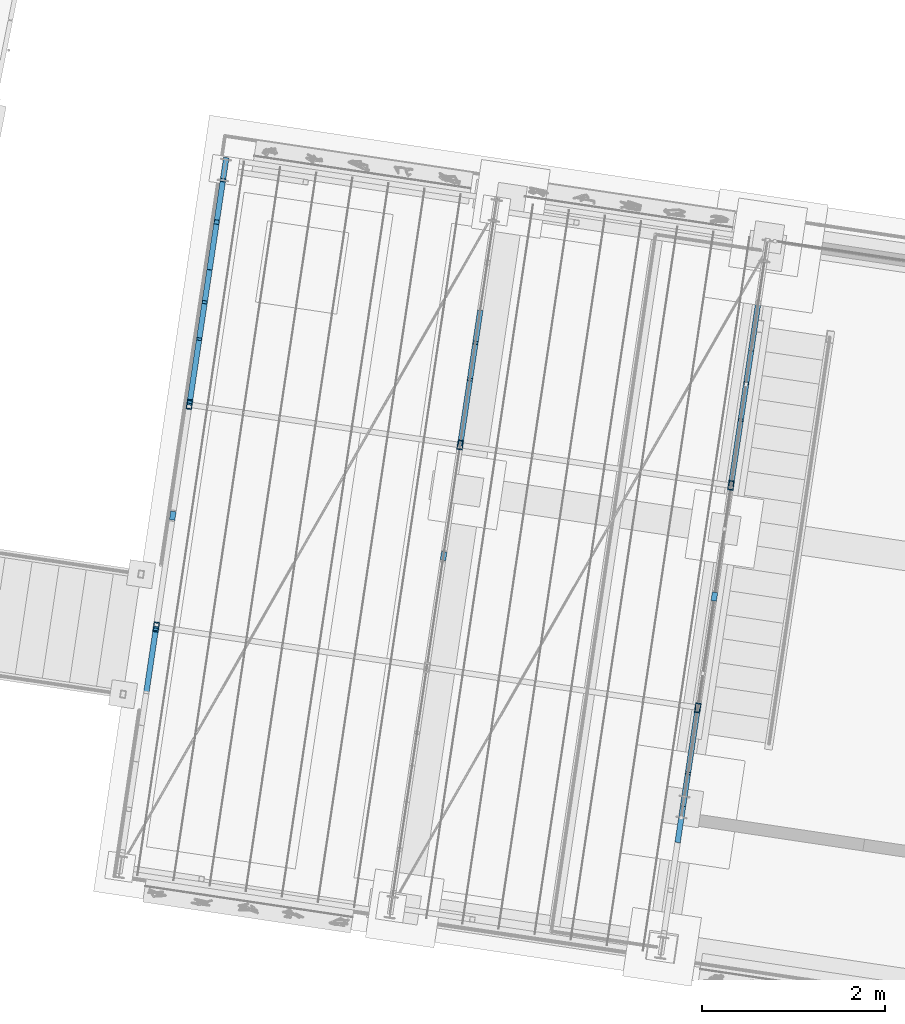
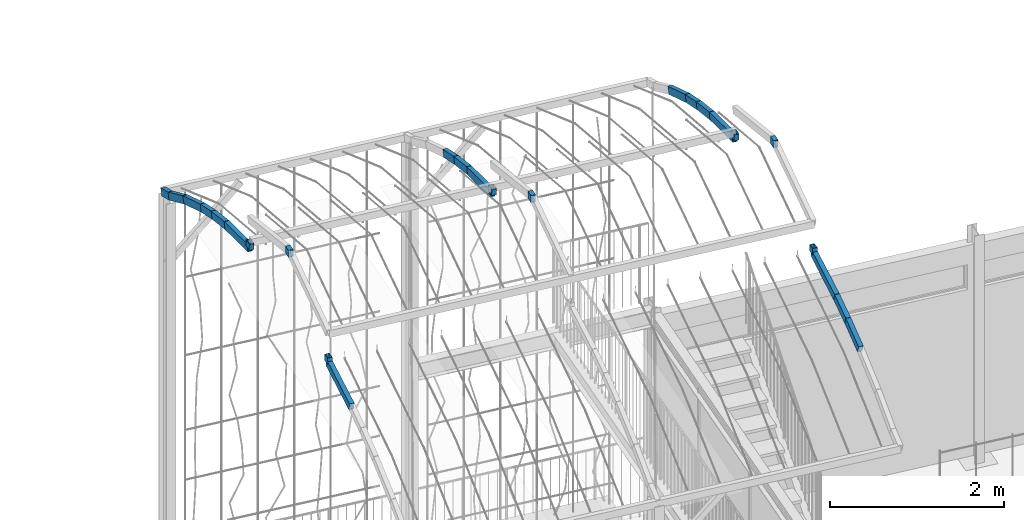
# One storey, part 111 of 142: 25 members, 1 element without a shape of its own.
"""IFC4 building model written with IfcOpenShell, lengths in metres."""

from ifc_helpers import new_model, si_unit, direction, frame, origin_with_axes, place, context, subcontext, project, spatial, hollow_rectangle, extrude, material, material_profile, profile_set, profile_usage, type_object, element, aggregate, save


model = new_model("IFC4")

# Units and contexts
model_context = context("Model", 3, precision=1e-05, world=origin_with_axes(), true_north=direction((0.0, 1.0)))
body_context = subcontext(model_context, "Body", "Model", "MODEL_VIEW")
ifc_project = project(units=[si_unit("AREAUNIT", "SQUARE_METRE"), si_unit("VOLUMEUNIT", "CUBIC_METRE"), si_unit("LENGTHUNIT", "METRE")], contexts=[model_context])

# Site, building, storey
site_placement = place(None, origin_with_axes())
site = spatial("IfcSite", under=ifc_project, at=site_placement, Name="Lares · Rua das Mercês · artigo 4771")
building_placement = place(site_placement, frame((15.0, 9.7, 14.65), z_axis=(0.0, 0.0, 1.0), x_axis=(0.989015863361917, -0.147809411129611, 0.0)))
building = spatial("IfcBuilding", under=site, at=building_placement, Name="Casa Sobreposta")
storey_placement = place(building_placement, origin_with_axes())
storey = spatial("IfcBuildingStorey", under=building, at=storey_placement, Name="00 · Habitação e estacionamento", Elevation=14.65)

# Assembly, members
assembly_placement = place(storey_placement, origin_with_axes())
assembly = element("IfcElementAssembly", 1, at=assembly_placement, inside=storey, Name="Pérgola · prolongamento da estufa 6 m", ObjectType="PERGOLA_GREENHOUSE_EXTENSION", PredefinedType="USERDEFINED")
ifc_material = material(Name="Aço pintado / Stahl lackiert", Category="steel")
ifc_material_profile = material_profile(ifc_material, hollow_rectangle(XDim=0.06, YDim=0.1, WallThickness=0.004))
ifc_profile_set = profile_set([ifc_material_profile], Name="RHS100x60x4")
ifc_profile_usage_1 = profile_usage(ifc_profile_set)
member_type = type_object("IfcMemberType", Name="RHS100x60x4 / steel", PredefinedType="NOTDEFINED", material=ifc_profile_set)
member_1_placement = place(assembly_placement, frame((-6.0, 0.493171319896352, 7.05943931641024), z_axis=(0.0, 0.977995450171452, 0.208626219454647), x_axis=(1.0, 0.0, 0.0)))
member_1 = element("IfcMember", 2, at=member_1_placement, type_object=member_type, material=ifc_profile_usage_1, Name="Pérgola · arco contínuo com a estufa", context=body_context, shape_type="SweptSolid", body=[
    extrude(hollow_rectangle(XDim=0.06, YDim=0.1, WallThickness=0.004), origin_with_axes(), (0.0, 0.0, 1.0), 0.737465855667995),
])
ifc_profile_usage_2 = profile_usage(ifc_profile_set)
member_2_placement = place(assembly_placement, frame((-6.0, 1.21440957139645, 7.21329402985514), z_axis=(0.0, 0.0686229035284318, 0.997642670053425), x_axis=(1.0, 0.0, 0.0)))
member_2 = element("IfcMember", 3, at=member_2_placement, type_object=member_type, material=ifc_profile_usage_2, Name="Pérgola · arco contínuo com a estufa", context=body_context, shape_type="SweptSolid", body=[
    extrude(hollow_rectangle(XDim=0.06, YDim=0.1, WallThickness=0.004), origin_with_axes(), (0.0, 0.0, 1.0), 0.0875893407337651),
])
ifc_profile_usage_3 = profile_usage(ifc_profile_set)
member_3_placement = place(assembly_placement, frame((-6.0, 2.40274082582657, 7.96518238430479), z_axis=(0.0, 1.0, 0.0), x_axis=(1.0, 0.0, 0.0)))
member_3 = element("IfcMember", 4, at=member_3_placement, type_object=member_type, material=ifc_profile_usage_3, Name="Pérgola · arco contínuo com a estufa", context=body_context, shape_type="SweptSolid", body=[
    extrude(hollow_rectangle(XDim=0.06, YDim=0.1, WallThickness=0.004), origin_with_axes(), (0.0, 0.0, 1.0), 0.0949594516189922),
])
ifc_profile_usage_4 = profile_usage(ifc_profile_set)
member_4_placement = place(assembly_placement, frame((-6.0, 3.68002089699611, 7.30067689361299), z_axis=(0.0, 0.0651953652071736, -0.997872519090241), x_axis=(1.0, 0.0, 0.0)))
member_4 = element("IfcMember", 5, at=member_4_placement, type_object=member_type, material=ifc_profile_usage_4, Name="Pérgola · arco contínuo com a estufa", context=body_context, shape_type="SweptSolid", body=[
    extrude(hollow_rectangle(XDim=0.06, YDim=0.1, WallThickness=0.004), origin_with_axes(), (0.0, 0.0, 1.0), 0.0875840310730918),
])
ifc_profile_usage_5 = profile_usage(ifc_profile_set)
member_5_placement = place(assembly_placement, frame((-6.0, 3.68573096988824, 7.21327919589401), z_axis=(0.0, 0.977996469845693, -0.208621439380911), x_axis=(1.0, 0.0, 0.0)))
member_5 = element("IfcMember", 6, at=member_5_placement, type_object=member_type, material=ifc_profile_usage_5, Name="Pérgola · arco contínuo com a estufa", context=body_context, shape_type="SweptSolid", body=[
    extrude(hollow_rectangle(XDim=0.06, YDim=0.1, WallThickness=0.004), origin_with_axes(), (0.0, 0.0, 1.0), 0.737400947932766),
])
ifc_profile_usage_6 = profile_usage(ifc_profile_set)
member_6_placement = place(assembly_placement, frame((-6.0, 4.40690649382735, 7.05944154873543), z_axis=(0.0, 0.958508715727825, -0.285063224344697), x_axis=(1.0, 0.0, 0.0)))
member_6 = element("IfcMember", 7, at=member_6_placement, type_object=member_type, material=ifc_profile_usage_6, Name="Pérgola · arco contínuo com a estufa", context=body_context, shape_type="SweptSolid", body=[
    extrude(hollow_rectangle(XDim=0.06, YDim=0.1, WallThickness=0.004), origin_with_axes(), (0.0, 0.0, 1.0), 0.426177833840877),
])
ifc_profile_usage_7 = profile_usage(ifc_profile_set)
member_7_placement = place(assembly_placement, frame((-6.0, 4.81540166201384, 6.93795392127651), z_axis=(0.0, 0.941396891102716, -0.337300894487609), x_axis=(1.0, 0.0, 0.0)))
member_7 = element("IfcMember", 8, at=member_7_placement, type_object=member_type, material=ifc_profile_usage_7, Name="Pérgola · arco contínuo com a estufa", context=body_context, shape_type="SweptSolid", body=[
    extrude(hollow_rectangle(XDim=0.06, YDim=0.1, WallThickness=0.004), origin_with_axes(), (0.0, 0.0, 1.0), 0.362337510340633),
])
ifc_profile_usage_8 = profile_usage(ifc_profile_set)
member_8_placement = place(assembly_placement, frame((-6.0, 5.15650506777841, 6.8157371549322), z_axis=(0.0, 0.915895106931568, -0.401417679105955), x_axis=(1.0, 0.0, 0.0)))
member_8 = element("IfcMember", 9, at=member_8_placement, type_object=member_type, material=ifc_profile_usage_8, Name="Pérgola · arco contínuo com a estufa", context=body_context, shape_type="SweptSolid", body=[
    extrude(hollow_rectangle(XDim=0.06, YDim=0.1, WallThickness=0.004), origin_with_axes(), (0.0, 0.0, 1.0), 0.596721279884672),
])
ifc_profile_usage_9 = profile_usage(ifc_profile_set)
member_9_placement = place(assembly_placement, frame((-6.0, 5.70303916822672, 6.57620268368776), z_axis=(0.0, 0.878867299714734, -0.477066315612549), x_axis=(1.0, 0.0, 0.0)))
member_9 = element("IfcMember", 10, at=member_9_placement, type_object=member_type, material=ifc_profile_usage_9, Name="Pérgola · arco contínuo com a estufa", context=body_context, shape_type="SweptSolid", body=[
    extrude(hollow_rectangle(XDim=0.06, YDim=0.1, WallThickness=0.004), origin_with_axes(), (0.0, 0.0, 1.0), 0.52859183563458),
])
ifc_profile_usage_10 = profile_usage(ifc_profile_set)
member_10_placement = place(assembly_placement, frame((-6.0, 6.16760124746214, 6.3240293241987), z_axis=(0.0, 0.932880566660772, -0.360185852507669), x_axis=(1.0, 0.0, 0.0)))
member_10 = element("IfcMember", 11, at=member_10_placement, type_object=member_type, material=ifc_profile_usage_10, Name="Pérgola · arco contínuo com a estufa", context=body_context, shape_type="SweptSolid", body=[
    extrude(hollow_rectangle(XDim=0.06, YDim=0.1, WallThickness=0.004), origin_with_axes(), (0.0, 0.0, 1.0), 0.249119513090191),
])
ifc_profile_usage_11 = profile_usage(ifc_profile_set)
member_11_placement = place(assembly_placement, frame((-3.0, 2.40274082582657, 7.96518238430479), z_axis=(0.0, 1.0, 0.0), x_axis=(1.0, 0.0, 0.0)))
member_11 = element("IfcMember", 12, at=member_11_placement, type_object=member_type, material=ifc_profile_usage_11, Name="Pérgola · arco contínuo com a estufa", context=body_context, shape_type="SweptSolid", body=[
    extrude(hollow_rectangle(XDim=0.06, YDim=0.1, WallThickness=0.004), origin_with_axes(), (0.0, 0.0, 1.0), 0.0949594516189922),
])
ifc_profile_usage_12 = profile_usage(ifc_profile_set)
member_12_placement = place(assembly_placement, frame((-3.0, 3.68002089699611, 7.30067689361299), z_axis=(0.0, 0.0651953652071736, -0.997872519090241), x_axis=(1.0, 0.0, 0.0)))
member_12 = element("IfcMember", 13, at=member_12_placement, type_object=member_type, material=ifc_profile_usage_12, Name="Pérgola · arco contínuo com a estufa", context=body_context, shape_type="SweptSolid", body=[
    extrude(hollow_rectangle(XDim=0.06, YDim=0.1, WallThickness=0.004), origin_with_axes(), (0.0, 0.0, 1.0), 0.0875840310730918),
])
ifc_profile_usage_13 = profile_usage(ifc_profile_set)
member_13_placement = place(assembly_placement, frame((-3.0, 3.68573096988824, 7.21327919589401), z_axis=(0.0, 0.977996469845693, -0.208621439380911), x_axis=(1.0, 0.0, 0.0)))
member_13 = element("IfcMember", 14, at=member_13_placement, type_object=member_type, material=ifc_profile_usage_13, Name="Pérgola · arco contínuo com a estufa", context=body_context, shape_type="SweptSolid", body=[
    extrude(hollow_rectangle(XDim=0.06, YDim=0.1, WallThickness=0.004), origin_with_axes(), (0.0, 0.0, 1.0), 0.737400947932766),
])
ifc_profile_usage_14 = profile_usage(ifc_profile_set)
member_14_placement = place(assembly_placement, frame((-3.0, 4.40690649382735, 7.05944154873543), z_axis=(0.0, 0.958508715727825, -0.285063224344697), x_axis=(1.0, 0.0, 0.0)))
member_14 = element("IfcMember", 15, at=member_14_placement, type_object=member_type, material=ifc_profile_usage_14, Name="Pérgola · arco contínuo com a estufa", context=body_context, shape_type="SweptSolid", body=[
    extrude(hollow_rectangle(XDim=0.06, YDim=0.1, WallThickness=0.004), origin_with_axes(), (0.0, 0.0, 1.0), 0.426177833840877),
])
ifc_profile_usage_15 = profile_usage(ifc_profile_set)
member_15_placement = place(assembly_placement, frame((-3.0, 4.81540166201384, 6.93795392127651), z_axis=(0.0, 0.941396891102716, -0.337300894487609), x_axis=(1.0, 0.0, 0.0)))
member_15 = element("IfcMember", 16, at=member_15_placement, type_object=member_type, material=ifc_profile_usage_15, Name="Pérgola · arco contínuo com a estufa", context=body_context, shape_type="SweptSolid", body=[
    extrude(hollow_rectangle(XDim=0.06, YDim=0.1, WallThickness=0.004), origin_with_axes(), (0.0, 0.0, 1.0), 0.362337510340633),
])
ifc_profile_usage_16 = profile_usage(ifc_profile_set)
member_16_placement = place(assembly_placement, frame((0.0, -0.256488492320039, 6.81570306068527), z_axis=(0.0, 0.942820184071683, 0.333301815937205), x_axis=(1.0, 0.0, 0.0)))
member_16 = element("IfcMember", 17, at=member_16_placement, type_object=member_type, material=ifc_profile_usage_16, Name="Pérgola · arco contínuo com a estufa", context=body_context, shape_type="SweptSolid", body=[
    extrude(hollow_rectangle(XDim=0.06, YDim=0.1, WallThickness=0.004), origin_with_axes(), (0.0, 0.0, 1.0), 0.423025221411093),
])
ifc_profile_usage_17 = profile_usage(ifc_profile_set)
member_17_placement = place(assembly_placement, frame((0.0, 0.142348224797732, 6.95669813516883), z_axis=(0.0, 0.959692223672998, 0.281053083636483), x_axis=(1.0, 0.0, 0.0)))
member_17 = element("IfcMember", 18, at=member_17_placement, type_object=member_type, material=ifc_profile_usage_17, Name="Pérgola · arco contínuo com a estufa", context=body_context, shape_type="SweptSolid", body=[
    extrude(hollow_rectangle(XDim=0.06, YDim=0.1, WallThickness=0.004), origin_with_axes(), (0.0, 0.0, 1.0), 0.365557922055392),
])
ifc_profile_usage_18 = profile_usage(ifc_profile_set)
member_18_placement = place(assembly_placement, frame((0.0, 0.493171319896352, 7.05943931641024), z_axis=(0.0, 0.977995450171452, 0.208626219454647), x_axis=(1.0, 0.0, 0.0)))
member_18 = element("IfcMember", 19, at=member_18_placement, type_object=member_type, material=ifc_profile_usage_18, Name="Pérgola · arco contínuo com a estufa", context=body_context, shape_type="SweptSolid", body=[
    extrude(hollow_rectangle(XDim=0.06, YDim=0.1, WallThickness=0.004), origin_with_axes(), (0.0, 0.0, 1.0), 0.737465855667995),
])
ifc_profile_usage_19 = profile_usage(ifc_profile_set)
member_19_placement = place(assembly_placement, frame((0.0, 1.21440957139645, 7.21329402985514), z_axis=(0.0, 0.0686229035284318, 0.997642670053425), x_axis=(1.0, 0.0, 0.0)))
member_19 = element("IfcMember", 20, at=member_19_placement, type_object=member_type, material=ifc_profile_usage_19, Name="Pérgola · arco contínuo com a estufa", context=body_context, shape_type="SweptSolid", body=[
    extrude(hollow_rectangle(XDim=0.06, YDim=0.1, WallThickness=0.004), origin_with_axes(), (0.0, 0.0, 1.0), 0.0875893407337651),
])
ifc_profile_usage_20 = profile_usage(ifc_profile_set)
member_20_placement = place(assembly_placement, frame((0.0, 2.40274082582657, 7.96518238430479), z_axis=(0.0, 1.0, 0.0), x_axis=(1.0, 0.0, 0.0)))
member_20 = element("IfcMember", 21, at=member_20_placement, type_object=member_type, material=ifc_profile_usage_20, Name="Pérgola · arco contínuo com a estufa", context=body_context, shape_type="SweptSolid", body=[
    extrude(hollow_rectangle(XDim=0.06, YDim=0.1, WallThickness=0.004), origin_with_axes(), (0.0, 0.0, 1.0), 0.0949594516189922),
])
ifc_profile_usage_21 = profile_usage(ifc_profile_set)
member_21_placement = place(assembly_placement, frame((0.0, 3.68002089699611, 7.30067689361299), z_axis=(0.0, 0.0651953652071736, -0.997872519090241), x_axis=(1.0, 0.0, 0.0)))
member_21 = element("IfcMember", 22, at=member_21_placement, type_object=member_type, material=ifc_profile_usage_21, Name="Pérgola · arco contínuo com a estufa", context=body_context, shape_type="SweptSolid", body=[
    extrude(hollow_rectangle(XDim=0.06, YDim=0.1, WallThickness=0.004), origin_with_axes(), (0.0, 0.0, 1.0), 0.0875840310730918),
])
ifc_profile_usage_22 = profile_usage(ifc_profile_set)
member_22_placement = place(assembly_placement, frame((0.0, 3.68573096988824, 7.21327919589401), z_axis=(0.0, 0.977996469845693, -0.208621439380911), x_axis=(1.0, 0.0, 0.0)))
member_22 = element("IfcMember", 23, at=member_22_placement, type_object=member_type, material=ifc_profile_usage_22, Name="Pérgola · arco contínuo com a estufa", context=body_context, shape_type="SweptSolid", body=[
    extrude(hollow_rectangle(XDim=0.06, YDim=0.1, WallThickness=0.004), origin_with_axes(), (0.0, 0.0, 1.0), 0.737400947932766),
])
ifc_profile_usage_23 = profile_usage(ifc_profile_set)
member_23_placement = place(assembly_placement, frame((0.0, 4.40690649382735, 7.05944154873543), z_axis=(0.0, 0.958508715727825, -0.285063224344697), x_axis=(1.0, 0.0, 0.0)))
member_23 = element("IfcMember", 24, at=member_23_placement, type_object=member_type, material=ifc_profile_usage_23, Name="Pérgola · arco contínuo com a estufa", context=body_context, shape_type="SweptSolid", body=[
    extrude(hollow_rectangle(XDim=0.06, YDim=0.1, WallThickness=0.004), origin_with_axes(), (0.0, 0.0, 1.0), 0.426177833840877),
])
ifc_profile_usage_24 = profile_usage(ifc_profile_set)
member_24_placement = place(assembly_placement, frame((0.0, 4.81540166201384, 6.93795392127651), z_axis=(0.0, 0.941396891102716, -0.337300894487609), x_axis=(1.0, 0.0, 0.0)))
member_24 = element("IfcMember", 25, at=member_24_placement, type_object=member_type, material=ifc_profile_usage_24, Name="Pérgola · arco contínuo com a estufa", context=body_context, shape_type="SweptSolid", body=[
    extrude(hollow_rectangle(XDim=0.06, YDim=0.1, WallThickness=0.004), origin_with_axes(), (0.0, 0.0, 1.0), 0.362337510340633),
])
ifc_profile_usage_25 = profile_usage(ifc_profile_set)
member_25_placement = place(assembly_placement, frame((0.0, 5.15650506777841, 6.8157371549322), z_axis=(0.0, 0.915895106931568, -0.401417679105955), x_axis=(1.0, 0.0, 0.0)))
member_25 = element("IfcMember", 26, at=member_25_placement, type_object=member_type, material=ifc_profile_usage_25, Name="Pérgola · arco contínuo com a estufa", context=body_context, shape_type="SweptSolid", body=[
    extrude(hollow_rectangle(XDim=0.06, YDim=0.1, WallThickness=0.004), origin_with_axes(), (0.0, 0.0, 1.0), 0.596721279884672),
])
aggregate(assembly, [member_1, member_2, member_3, member_4, member_5, member_6, member_7, member_8, member_9, member_10, member_11, member_12, member_13, member_14, member_15, member_16, member_17, member_18, member_19, member_20, member_21, member_22, member_23, member_24, member_25])

save(model, "model.ifc")
